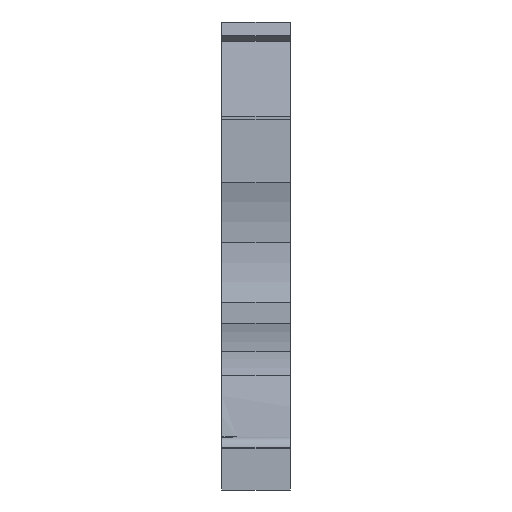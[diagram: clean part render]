
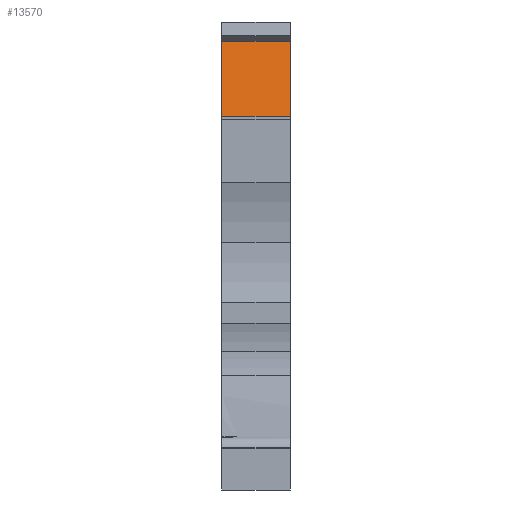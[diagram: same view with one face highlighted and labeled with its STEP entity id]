
A CAD part, front view. The second image highlights one B-rep face of the part: STEP entity #13570.
In plain terms, the highlighted planar face has unit normal (0, -0.985, 0.174).
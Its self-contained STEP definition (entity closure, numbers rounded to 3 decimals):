
#327=CARTESIAN_POINT('',(0.,1.554,27.759));
#328=VERTEX_POINT('',#327);
#335=CARTESIAN_POINT('',(0.,2.652,33.988));
#336=VERTEX_POINT('',#335);
#337=CARTESIAN_POINT('',(0.,2.652,33.988));
#338=DIRECTION('',(-0.,-0.174,-0.985));
#339=VECTOR('',#338,6.325);
#340=LINE('',#337,#339);
#341=EDGE_CURVE('',#336,#328,#340,.T.);
#13298=CARTESIAN_POINT('',(5.15,2.652,33.988));
#13299=VERTEX_POINT('',#13298);
#13306=CARTESIAN_POINT('',(5.15,1.554,27.759));
#13307=VERTEX_POINT('',#13306);
#13308=CARTESIAN_POINT('',(5.15,2.652,33.988));
#13309=DIRECTION('',(-0.,-0.174,-0.985));
#13310=VECTOR('',#13309,6.325);
#13311=LINE('',#13308,#13310);
#13312=EDGE_CURVE('',#13299,#13307,#13311,.T.);
#13482=CARTESIAN_POINT('',(0.,1.554,27.759));
#13483=DIRECTION('',(1.,0.,0.));
#13484=VECTOR('',#13483,5.15);
#13485=LINE('',#13482,#13484);
#13486=EDGE_CURVE('',#328,#13307,#13485,.T.);
#13554=CARTESIAN_POINT('',(0.,2.565,33.495));
#13555=DIRECTION('',(0.,0.985,-0.174));
#13556=DIRECTION('',(0.,0.174,0.985));
#13557=AXIS2_PLACEMENT_3D('',#13554,#13555,#13556);
#13558=PLANE('',#13557);
#13559=ORIENTED_EDGE('',*,*,#341,.T.);
#13560=ORIENTED_EDGE('',*,*,#13486,.T.);
#13561=ORIENTED_EDGE('',*,*,#13312,.F.);
#13562=CARTESIAN_POINT('',(5.15,2.652,33.988));
#13563=DIRECTION('',(-1.,-0.,-0.));
#13564=VECTOR('',#13563,5.15);
#13565=LINE('',#13562,#13564);
#13566=EDGE_CURVE('',#13299,#336,#13565,.T.);
#13567=ORIENTED_EDGE('',*,*,#13566,.T.);
#13568=EDGE_LOOP('',(#13559,#13560,#13561,#13567));
#13569=FACE_BOUND('',#13568,.T.);
#13570=ADVANCED_FACE('',(#13569),#13558,.F.);
